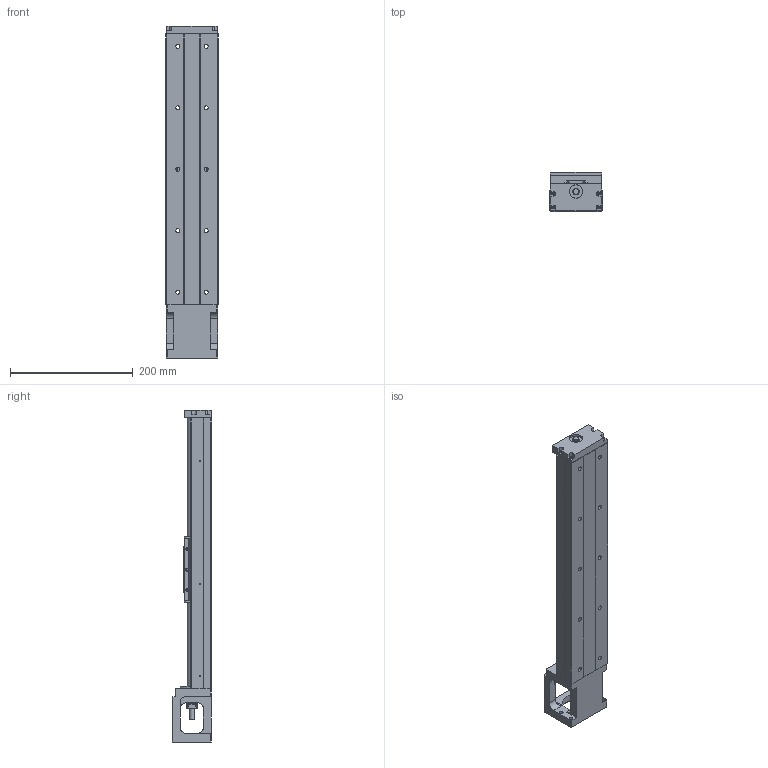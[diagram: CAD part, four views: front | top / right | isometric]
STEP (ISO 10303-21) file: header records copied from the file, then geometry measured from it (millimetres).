
FILE_DESCRIPTION(/* description */ (''),/* implementation_level */ '2;1');
FILE_NAME(/* name */ '46L-440low.stp',/* time_stamp */ '2018-02-12T11:33:05+08:00',/* author */ (''),/* organization */ (''),/* preprocessor_version */ 'ST-DEVELOPER v11',/* originating_system */ 'SIEMENS UGS NX 6.0',/* authorisation */ '');
FILE_SCHEMA (('AUTOMOTIVE_DESIGN { 1 0 10303 214 1 1 1 1 }'));
Length unit declared in the file: millimetre
Products named in the file (1): 3.069
Bounding box: 86 x 64 x 540 mm (x, y, z)
Volume: 1179275.4 mm3; surface area: 250941.1 mm2
Topology: 5 solids, 13 shells, 618 faces, 1631 edges, 1069 vertices
Faces by surface type: plane 283, cylinder 223, cone 57, bspline 47, torus 8
Full cylindrical faces by diameter (mm): 2.11 x4, 2.15 x6, 2.42 x8, 3 x6, 3.2 x4, 3.3 x6, 3.4 x8, 4.2 x4, 4.5 x8, 5 x10, 6 x8, 6.35 x2, 6.6 x10, 8 x1, 9.6 x1, 10 x3, 11 x10, 12 x1, 14.95 x2, 15 x1, 16 x2, 22 x3, 27.5 x1, 44 x1, 50 x1
Entity records: 31108 total; most frequent: CARTESIAN_POINT 12736, ORIENTED_EDGE 2806, DIRECTION 2702, EDGE_CURVE 1403, VERTEX_POINT 1001, AXIS2_PLACEMENT_3D 997, EDGE_LOOP 866, LINE 708
